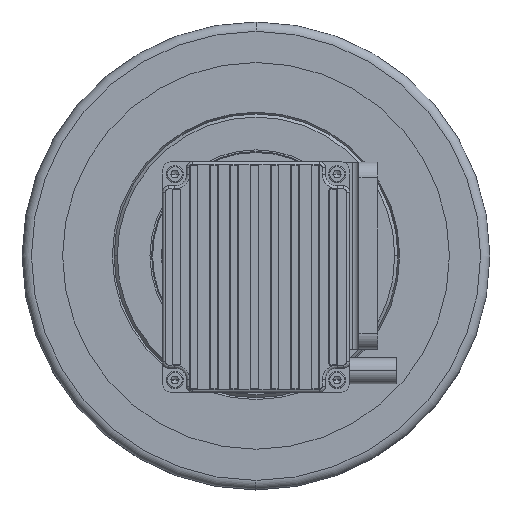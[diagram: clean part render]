
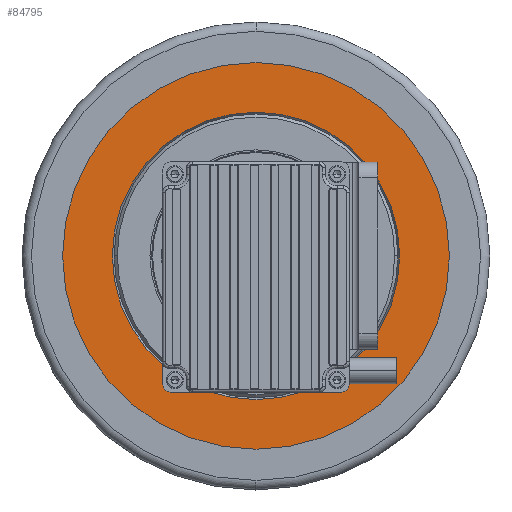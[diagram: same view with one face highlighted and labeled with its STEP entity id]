
A CAD part, top view. The second image highlights one B-rep face of the part: STEP entity #84795.
In plain terms, the highlighted planar face has unit normal (0, 0, 1).
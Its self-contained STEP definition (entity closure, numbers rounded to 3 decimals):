
#449 = CARTESIAN_POINT ( 'NONE',  ( 0., 98.745, 40.028 ) ) ;
#1430 = AXIS2_PLACEMENT_3D ( 'NONE', #99155, #9532, #48841 ) ;
#3958 = VERTEX_POINT ( 'NONE', #106607 ) ;
#4014 = PLANE ( 'NONE',  #74397 ) ;
#4645 = CARTESIAN_POINT ( 'NONE',  ( 0., 98.745, 40.028 ) ) ;
#7238 = EDGE_LOOP ( 'NONE', ( #24927, #93368 ) ) ;
#9532 = DIRECTION ( 'NONE',  ( 0., 0., -1. ) ) ;
#10186 = CARTESIAN_POINT ( 'NONE',  ( 0., 144.823, 40.028 ) ) ;
#13966 = ORIENTED_EDGE ( 'NONE', *, *, #20002, .T. ) ;
#14616 = AXIS2_PLACEMENT_3D ( 'NONE', #24177, #22911, #52562 ) ;
#19091 = CARTESIAN_POINT ( 'NONE',  ( 0., 98.745, 40.028 ) ) ;
#19619 = AXIS2_PLACEMENT_3D ( 'NONE', #449, #117896, #29483 ) ;
#20002 = EDGE_CURVE ( 'NONE', #44497, #95490, #57583, .T. ) ;
#22911 = DIRECTION ( 'NONE',  ( 0., 0., -1. ) ) ;
#23999 = DIRECTION ( 'NONE',  ( 0., -1., 0. ) ) ;
#24177 = CARTESIAN_POINT ( 'NONE',  ( 0., 98.745, 40.028 ) ) ;
#24927 = ORIENTED_EDGE ( 'NONE', *, *, #119518, .F. ) ;
#29483 = DIRECTION ( 'NONE',  ( 0., -1., 0. ) ) ;
#38079 = ORIENTED_EDGE ( 'NONE', *, *, #73955, .T. ) ;
#39914 = CARTESIAN_POINT ( 'NONE',  ( 46.077, 98.745, 40.028 ) ) ;
#42513 = EDGE_CURVE ( 'NONE', #3958, #44497, #83424, .T. ) ;
#43647 = AXIS2_PLACEMENT_3D ( 'NONE', #19091, #97785, #120361 ) ;
#44497 = VERTEX_POINT ( 'NONE', #10186 ) ;
#48841 = DIRECTION ( 'NONE',  ( 0., 1., 0. ) ) ;
#52562 = DIRECTION ( 'NONE',  ( 0., 1., 0. ) ) ;
#57583 = CIRCLE ( 'NONE', #119434, 46.077 ) ;
#60028 = CIRCLE ( 'NONE', #14616, 46.077 ) ;
#60821 = ORIENTED_EDGE ( 'NONE', *, *, #42513, .T. ) ;
#62726 = FACE_BOUND ( 'NONE', #113051, .T. ) ;
#67730 = DIRECTION ( 'NONE',  ( 0., 0., -1. ) ) ;
#72073 = CARTESIAN_POINT ( 'NONE',  ( 0., 36.745, 40.028 ) ) ;
#72356 = VERTEX_POINT ( 'NONE', #72073 ) ;
#72988 = CARTESIAN_POINT ( 'NONE',  ( 0., 160.745, 40.028 ) ) ;
#73955 = EDGE_CURVE ( 'NONE', #95490, #3958, #60028, .T. ) ;
#74397 = AXIS2_PLACEMENT_3D ( 'NONE', #4645, #93671, #23999 ) ;
#77134 = EDGE_CURVE ( 'NONE', #72356, #111268, #99342, .T. ) ;
#83424 = CIRCLE ( 'NONE', #19619, 46.077 ) ;
#84795 = ADVANCED_FACE ( 'NONE', ( #62726, #122741 ), #4014, .F. ) ;
#87742 = CARTESIAN_POINT ( 'NONE',  ( 0., 98.745, 40.028 ) ) ;
#93368 = ORIENTED_EDGE ( 'NONE', *, *, #77134, .F. ) ;
#93671 = DIRECTION ( 'NONE',  ( 0., 0., -1. ) ) ;
#94024 = CIRCLE ( 'NONE', #1430, 62. ) ;
#95490 = VERTEX_POINT ( 'NONE', #39914 ) ;
#97785 = DIRECTION ( 'NONE',  ( 0., 0., -1. ) ) ;
#99155 = CARTESIAN_POINT ( 'NONE',  ( 0., 98.745, 40.028 ) ) ;
#99342 = CIRCLE ( 'NONE', #43647, 62. ) ;
#106607 = CARTESIAN_POINT ( 'NONE',  ( 0., 52.668, 40.028 ) ) ;
#111268 = VERTEX_POINT ( 'NONE', #72988 ) ;
#113051 = EDGE_LOOP ( 'NONE', ( #60821, #13966, #38079 ) ) ;
#117896 = DIRECTION ( 'NONE',  ( 0., 0., -1. ) ) ;
#119434 = AXIS2_PLACEMENT_3D ( 'NONE', #87742, #67730, #127126 ) ;
#119518 = EDGE_CURVE ( 'NONE', #111268, #72356, #94024, .T. ) ;
#120361 = DIRECTION ( 'NONE',  ( 0., -1., 0. ) ) ;
#122741 = FACE_OUTER_BOUND ( 'NONE', #7238, .T. ) ;
#127126 = DIRECTION ( 'NONE',  ( 0., 1., 0. ) ) ;
